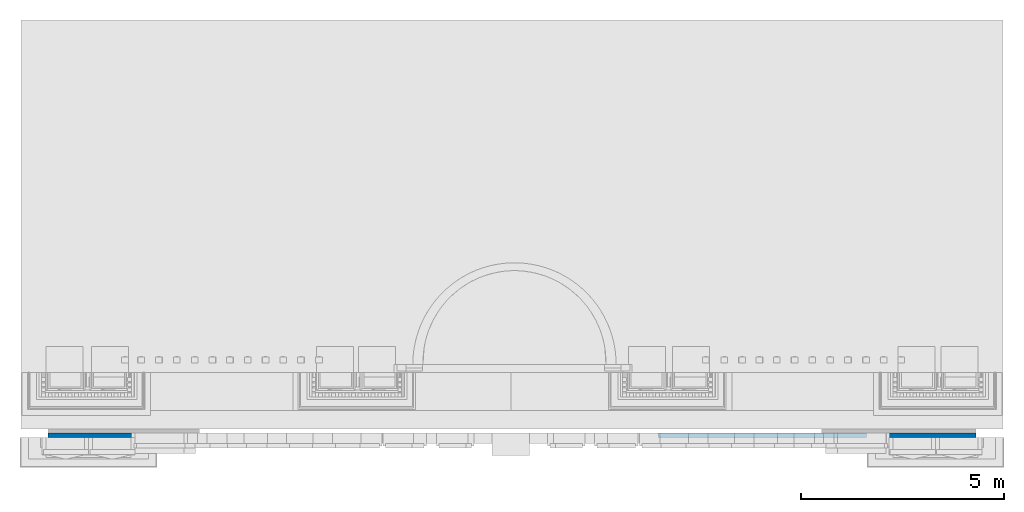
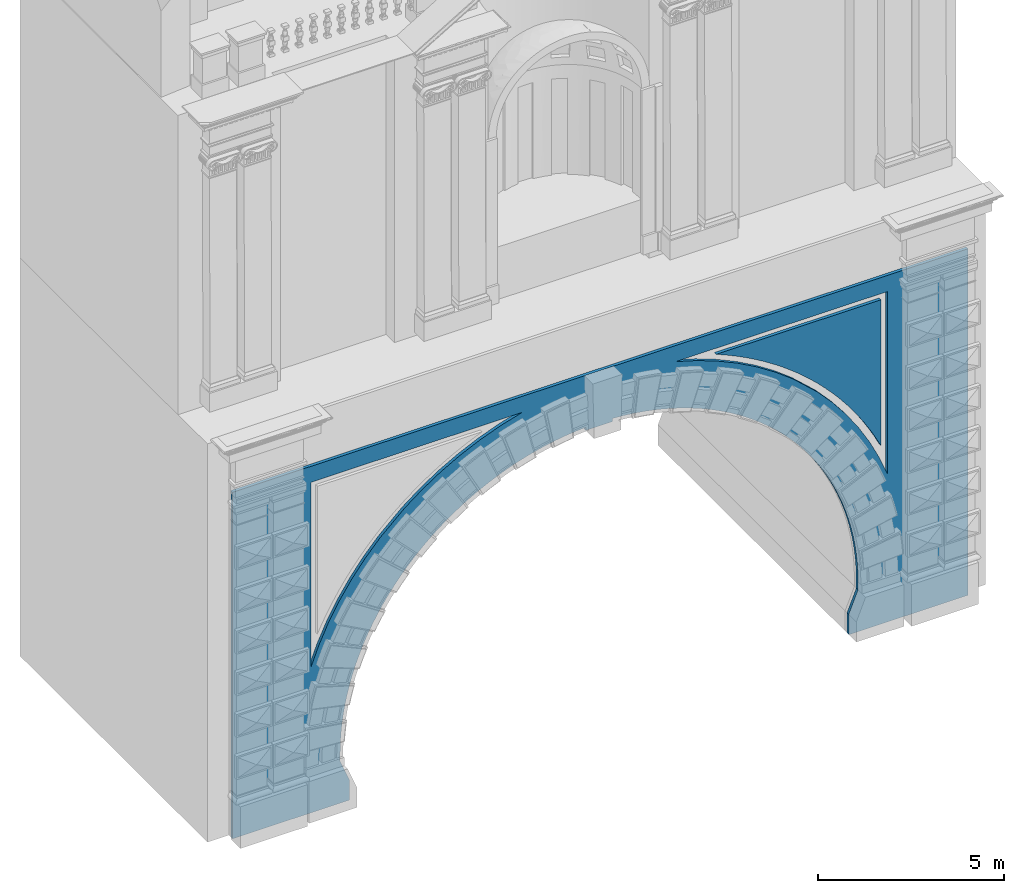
# One storey, part 2 of 44: 2 walls.
"""IFC2X3 building model written with IfcOpenShell, lengths in metres."""

from ifc_helpers import new_model, entity, si_unit, converted_unit, derived_unit, direction, frame, origin, place, context, subcontext, project, spatial, faceted_brep, material, element, save


model = new_model("IFC2X3")

# Units and contexts
model_context = context("Model", 3, precision=1e-05, world=origin(), true_north=direction((6.12303176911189e-17, 1.0)))
body_context = subcontext(model_context, "Body", "Model", "MODEL_VIEW")
ifc_project = project(units=[si_unit("LENGTHUNIT", "METRE"), si_unit("AREAUNIT", "SQUARE_METRE"), si_unit("VOLUMEUNIT", "CUBIC_METRE"), converted_unit("PLANEANGLEUNIT", "DEGREE", entity("IfcRatioMeasure", 0.0174532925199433), si_unit("PLANEANGLEUNIT", "RADIAN"), dimensions=[0, 0, 0, 0, 0, 0, 0]), si_unit("MASSUNIT", "GRAM", prefix="KILO"), derived_unit("MASSDENSITYUNIT", [(si_unit("MASSUNIT", "GRAM", prefix="KILO"), 1), (si_unit("LENGTHUNIT", "METRE"), -3)]), si_unit("TIMEUNIT", "SECOND"), si_unit("FREQUENCYUNIT", "HERTZ"), si_unit("THERMODYNAMICTEMPERATUREUNIT", "DEGREE_CELSIUS"), derived_unit("THERMALTRANSMITTANCEUNIT", [(si_unit("MASSUNIT", "GRAM", prefix="KILO"), 1), (si_unit("THERMODYNAMICTEMPERATUREUNIT", "KELVIN"), -1), (si_unit("TIMEUNIT", "SECOND"), -3)]), derived_unit("VOLUMETRICFLOWRATEUNIT", [(si_unit("LENGTHUNIT", "METRE"), 3), (si_unit("TIMEUNIT", "SECOND"), -1)]), si_unit("ELECTRICCURRENTUNIT", "AMPERE"), si_unit("ELECTRICVOLTAGEUNIT", "VOLT"), si_unit("POWERUNIT", "WATT"), si_unit("FORCEUNIT", "NEWTON", prefix="KILO"), si_unit("ILLUMINANCEUNIT", "LUX"), si_unit("LUMINOUSFLUXUNIT", "LUMEN"), si_unit("LUMINOUSINTENSITYUNIT", "CANDELA"), derived_unit("USERDEFINED", [(si_unit("MASSUNIT", "GRAM", prefix="KILO"), -1), (si_unit("LENGTHUNIT", "METRE"), -2), (si_unit("TIMEUNIT", "SECOND"), 3), (si_unit("LUMINOUSFLUXUNIT", "LUMEN"), 1)]), derived_unit("LINEARVELOCITYUNIT", [(si_unit("LENGTHUNIT", "METRE"), 1), (si_unit("TIMEUNIT", "SECOND"), -1)]), si_unit("PRESSUREUNIT", "PASCAL"), derived_unit("USERDEFINED", [(si_unit("LENGTHUNIT", "METRE"), -2), (si_unit("MASSUNIT", "GRAM", prefix="KILO"), 1), (si_unit("TIMEUNIT", "SECOND"), -2)])], contexts=[model_context])

# Site, building, storey
site_placement = place(None, origin())
site = spatial("IfcSite", under=ifc_project, at=site_placement, Name="Default", CompositionType="ELEMENT")
building_placement = place(site_placement, origin())
building = spatial("IfcBuilding", under=site, at=building_placement, CompositionType="ELEMENT")
storey_placement = place(building_placement, origin())
storey = spatial("IfcBuildingStorey", under=building, at=storey_placement, Name="Livello 1", CompositionType="ELEMENT", Elevation=0.0)

# Walls
ifc_material = material(Name="Travertino")
wall_1_placement = place(storey_placement, frame((-11.4560798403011, -0.334467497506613, 0.0)))
element("IfcWall", 1, at=wall_1_placement, inside=storey, material=ifc_material, Name="Stratigrafia", context=body_context, shape_type="Brep", body=[
    faceted_brep([(8.98517072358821, 0.100000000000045, 10.8413163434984), (8.98517072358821, 0.0, 10.8413163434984), (2.42916462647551, 0.0, 10.8413163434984), (2.42916462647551, 0.100000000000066, 10.8413163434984), (2.42813729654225, 0.0, 4.76894931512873), (2.42813729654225, 0.100000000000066, 4.76894931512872), (2.67488884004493, 0.0, 5.41289509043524), (2.9681069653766, 0.0, 6.03705501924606), (2.9681069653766, 0.100000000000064, 6.03705501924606), (2.67488884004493, 0.100000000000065, 5.41289509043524), (4.10963988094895, 0.0, 7.75798061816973), (4.57063958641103, 0.0, 8.27084683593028), (4.57063958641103, 0.100000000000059, 8.27084683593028), (4.10963988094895, 0.10000000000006, 7.75798061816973), (3.30621899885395, 0.0, 6.63808142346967), (3.68741147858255, 0.0, 7.21275070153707), (3.68741147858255, 0.100000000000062, 7.21275070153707), (3.30621899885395, 0.100000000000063, 6.63808142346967), (4.95000627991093, 0.0, 8.62217245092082), (5.32937297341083, 0.0, 8.97349806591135), (5.32937297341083, 0.100000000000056, 8.97349806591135), (4.95000627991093, 0.100000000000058, 8.62217245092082), (5.87606145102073, 0.0, 9.39383625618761), (6.45204704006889, 0.0, 9.77303684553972), (6.45204704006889, 0.100000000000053, 9.77303684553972), (5.87606145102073, 0.100000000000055, 9.39383625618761), (8.32420801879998, 0.100000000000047, 10.6446420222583), (7.67941180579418, 0.100000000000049, 10.4001214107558), (7.67941180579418, 0.0, 10.4001214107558), (8.32420801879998, 0.0, 10.6446420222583), (7.05424044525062, 0.0, 10.1090659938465), (7.05424044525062, 0.100000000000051, 10.1090659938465), (20.3160033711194, 0.100000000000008, 10.8381782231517), (20.3160033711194, 0.0, 10.8381782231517), (13.753724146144, 0.0, 10.8381782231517), (13.753724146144, 0.100000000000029, 10.8381782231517), (14.4094725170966, 0.0, 10.6429819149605), (15.0494813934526, 0.0, 10.4011221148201), (15.0494813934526, 0.100000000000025, 10.4011221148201), (14.4094725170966, 0.100000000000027, 10.6429819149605), (16.8424231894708, 0.0, 9.40926087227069), (17.3873859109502, 0.0, 8.99559052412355), (17.3873859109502, 0.100000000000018, 8.99559052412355), (16.8424231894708, 0.100000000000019, 9.40926087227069), (15.6704349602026, 0.0, 10.1138518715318), (16.2691161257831, 0.0, 9.78265950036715), (16.2691161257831, 0.100000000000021, 9.78265950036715), (15.6704349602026, 0.100000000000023, 10.1138518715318), (17.7664689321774, 0.0, 8.64995429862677), (18.1455519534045, 0.0, 8.30431807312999), (18.1455519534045, 0.100000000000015, 8.30431807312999), (17.7664689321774, 0.100000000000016, 8.64995429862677), (18.6076585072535, 0.0, 7.79977366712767), (19.0322752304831, 0.0, 7.26329611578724), (19.0322752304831, 0.100000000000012, 7.26329611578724), (18.6076585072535, 0.100000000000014, 7.79977366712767), (20.0602259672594, 0.100000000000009, 5.4907989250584), (19.7604452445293, 0.10000000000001, 6.10581034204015), (19.7604452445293, 0.0, 6.10581034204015), (20.0602259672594, 0.0, 5.4907989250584), (19.4172022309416, 0.0, 6.69766484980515), (19.4172022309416, 0.100000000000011, 6.69766484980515), (20.3149912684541, 0.0, 4.85581690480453), (20.3149912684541, 0.100000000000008, 4.85581690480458), (7.38500571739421, 0.10000000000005, 8.61146723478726), (7.65963426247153, 0.100000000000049, 8.76140181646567), (7.11642358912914, 0.100000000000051, 8.45095288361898), (6.85429524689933, 0.100000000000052, 8.28010222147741), (6.59901827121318, 0.100000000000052, 8.09917438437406), (6.35097985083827, 0.100000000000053, 7.90844379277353), (6.11055619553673, 0.100000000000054, 7.70819973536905), (5.87811196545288, 0.100000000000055, 7.49874593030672), (5.65399971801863, 0.100000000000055, 7.28040006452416), (5.43855937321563, 0.100000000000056, 7.05349331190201), (5.23211769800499, 0.100000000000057, 6.81836983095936), (5.03498781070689, 0.100000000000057, 6.57538624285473), (4.84746870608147, 0.100000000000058, 6.32491109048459), (4.6698448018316, 0.100000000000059, 6.06732427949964), (4.50238550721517, 0.100000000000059, 5.80301650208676), (4.34534481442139, 0.10000000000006, 5.5323886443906), (4.19896091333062, 0.10000000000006, 5.25585117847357), (4.06345583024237, 0.100000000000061, 4.9738235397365), (3.93903509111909, 0.100000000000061, 4.68673349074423), (3.8258874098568, 0.100000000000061, 4.39501647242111), (3.72418440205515, 0.100000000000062, 4.09911494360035), (3.63408032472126, 0.100000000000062, 3.79947770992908), (3.55571184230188, 0.100000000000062, 3.49655924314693), (3.48919781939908, 0.100000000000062, 3.19081899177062), (3.43463914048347, 0.100000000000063, 2.88272068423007), (3.39211855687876, 0.100000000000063, 2.57273162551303), (3.36170056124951, 0.100000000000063, 2.26132198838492), (0.0, 0.100000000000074, 0.0), (3.34343128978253, 0.100000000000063, 1.94896410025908), (3.33733845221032, 0.100000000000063, 1.63613172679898), (3.33733845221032, 0.100000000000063, 1.36736325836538), (3.62394293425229, 0.100000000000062, 0.663748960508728), (3.62394293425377, 0.100000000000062, 0.0), (0.0, 0.100000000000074, 11.3667755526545), (22.8114435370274, 0.0999999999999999, 11.3667755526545), (22.8114435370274, 0.0999999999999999, 2.46118589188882e-09), (19.3508049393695, 0.100000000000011, 2.57273162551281), (19.3812229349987, 0.100000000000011, 2.26132198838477), (19.3994922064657, 0.100000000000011, 1.94896410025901), (19.4055850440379, 0.100000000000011, 1.63613172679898), (19.4055850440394, 0.100000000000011, 1.36736325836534), (19.1189805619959, 0.100000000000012, 2.46118589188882e-09), (19.1189805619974, 0.100000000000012, 0.6637489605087), (19.3082843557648, 0.100000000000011, 2.88272068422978), (19.2537256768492, 0.100000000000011, 3.19081899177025), (19.1872116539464, 0.100000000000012, 3.49655924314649), (19.1088431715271, 0.100000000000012, 3.79947770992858), (19.0187390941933, 0.100000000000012, 4.09911494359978), (18.9170360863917, 0.100000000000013, 4.39501647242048), (18.8038884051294, 0.100000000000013, 4.68673349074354), (18.6794676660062, 0.100000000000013, 4.97382353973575), (18.543962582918, 0.100000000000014, 5.25585117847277), (18.3975786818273, 0.100000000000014, 5.53238864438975), (18.2405379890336, 0.100000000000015, 5.80301650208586), (18.0730786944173, 0.100000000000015, 6.0673242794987), (17.8954547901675, 0.100000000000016, 6.32491109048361), (17.7079356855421, 0.100000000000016, 6.57538624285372), (17.5108057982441, 0.100000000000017, 6.81836983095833), (17.3043641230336, 0.100000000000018, 7.05349331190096), (17.0889237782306, 0.100000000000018, 7.28040006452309), (16.8648115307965, 0.100000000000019, 7.49874593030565), (16.6323673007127, 0.10000000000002, 7.70819973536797), (16.3919436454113, 0.100000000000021, 7.90844379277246), (16.1439052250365, 0.100000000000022, 8.09917438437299), (15.8886282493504, 0.100000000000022, 8.28010222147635), (15.6264999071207, 0.100000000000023, 8.45095288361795), (15.3579177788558, 0.100000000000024, 8.61146723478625), (15.0832892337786, 0.100000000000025, 8.76140181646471), (14.8030308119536, 0.100000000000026, 8.900529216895), (14.5175675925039, 0.100000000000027, 9.02863841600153), (14.2273325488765, 0.100000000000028, 9.14553510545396), (13.9327658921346, 0.100000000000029, 9.25104198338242), (13.6343144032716, 0.10000000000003, 9.34499902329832), (13.3324307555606, 0.100000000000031, 9.42726371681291), (13.0275728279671, 0.100000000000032, 9.49771128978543), (12.7202030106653, 0.100000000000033, 9.55623489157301), (12.4107875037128, 0.100000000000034, 9.60274575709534), (12.0997956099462, 0.100000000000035, 9.63717334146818), (11.7876990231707, 0.100000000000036, 9.65946542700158), (10.9552244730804, 0.100000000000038, 9.65946542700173), (10.9577533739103, 0.100000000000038, 9.55915931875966), (11.7851701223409, 0.100000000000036, 9.55915931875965), (10.6431278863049, 0.100000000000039, 9.63717334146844), (10.3321359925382, 0.10000000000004, 9.6027457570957), (10.0227204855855, 0.100000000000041, 9.55623489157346), (9.71535066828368, 0.100000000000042, 9.49771128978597), (9.41049274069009, 0.100000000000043, 9.42726371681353), (9.10860909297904, 0.100000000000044, 9.34499902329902), (8.81015760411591, 0.100000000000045, 9.25104198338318), (8.5155909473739, 0.100000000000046, 9.14553510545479), (8.22535590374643, 0.100000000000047, 9.02863841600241), (7.9398926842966, 0.100000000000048, 8.90052921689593), (0.0, 0.0, 11.3667755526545), (22.8114435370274, 0.0, 11.3667755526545), (0.0, 0.0, 0.0), (3.33733845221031, 0.0, 1.36736325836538), (3.33733845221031, 0.0, 1.63613172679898), (3.62394293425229, 0.0, 0.663748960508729), (3.34343128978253, 0.0, 1.94896410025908), (3.36170056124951, 0.0, 2.26132198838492), (3.62394293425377, 0.0, 0.0), (3.39211855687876, 0.0, 2.57273162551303), (3.43463914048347, 0.0, 2.88272068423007), (3.48919781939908, 0.0, 3.19081899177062), (3.55571184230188, 0.0, 3.49655924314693), (3.63408032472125, 0.0, 3.79947770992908), (3.72418440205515, 0.0, 4.09911494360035), (3.82588740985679, 0.0, 4.39501647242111), (3.93903509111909, 0.0, 4.68673349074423), (4.06345583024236, 0.0, 4.9738235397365), (4.19896091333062, 0.0, 5.25585117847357), (4.34534481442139, 0.0, 5.5323886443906), (4.50238550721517, 0.0, 5.80301650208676), (4.6698448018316, 0.0, 6.06732427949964), (4.84746870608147, 0.0, 6.32491109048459), (5.03498781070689, 0.0, 6.57538624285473), (5.23211769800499, 0.0, 6.81836983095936), (5.43855937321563, 0.0, 7.05349331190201), (5.65399971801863, 0.0, 7.28040006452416), (5.87811196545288, 0.0, 7.49874593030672), (6.11055619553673, 0.0, 7.70819973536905), (6.35097985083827, 0.0, 7.90844379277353), (6.59901827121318, 0.0, 8.09917438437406), (6.85429524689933, 0.0, 8.28010222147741), (7.11642358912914, 0.0, 8.45095288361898), (7.38500571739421, 0.0, 8.61146723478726), (7.65963426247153, 0.0, 8.76140181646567), (7.9398926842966, 0.0, 8.90052921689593), (8.22535590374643, 0.0, 9.02863841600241), (8.5155909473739, 0.0, 9.14553510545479), (8.81015760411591, 0.0, 9.25104198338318), (9.10860909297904, 0.0, 9.34499902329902), (9.41049274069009, 0.0, 9.42726371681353), (9.71535066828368, 0.0, 9.49771128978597), (10.0227204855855, 0.0, 9.55623489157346), (10.3321359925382, 0.0, 9.6027457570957), (10.6431278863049, 0.0, 9.63717334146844), (10.9552244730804, 0.0, 9.65946542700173), (11.7876990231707, 0.0, 9.65946542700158), (10.9577533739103, 0.0, 9.55915931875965), (11.7851701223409, 0.0, 9.55915931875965), (12.0997956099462, 0.0, 9.63717334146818), (12.4107875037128, 0.0, 9.60274575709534), (12.7202030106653, 0.0, 9.55623489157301), (13.0275728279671, 0.0, 9.49771128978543), (13.3324307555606, 0.0, 9.42726371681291), (13.6343144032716, 0.0, 9.34499902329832), (13.9327658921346, 0.0, 9.25104198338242), (14.2273325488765, 0.0, 9.14553510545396), (14.5175675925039, 0.0, 9.02863841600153), (14.8030308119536, 0.0, 8.900529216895), (15.0832892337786, 0.0, 8.76140181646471), (15.3579177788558, 0.0, 8.61146723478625), (15.6264999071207, 0.0, 8.45095288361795), (15.8886282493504, 0.0, 8.28010222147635), (16.1439052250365, 0.0, 8.09917438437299), (16.3919436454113, 0.0, 7.90844379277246), (16.6323673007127, 0.0, 7.70819973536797), (16.8648115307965, 0.0, 7.49874593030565), (17.0889237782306, 0.0, 7.28040006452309), (17.3043641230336, 0.0, 7.05349331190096), (17.5108057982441, 0.0, 6.81836983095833), (17.7079356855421, 0.0, 6.57538624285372), (17.8954547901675, 0.0, 6.32491109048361), (18.0730786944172, 0.0, 6.0673242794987), (18.2405379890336, 0.0, 5.80301650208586), (18.3975786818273, 0.0, 5.53238864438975), (18.543962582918, 0.0, 5.25585117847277), (18.6794676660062, 0.0, 4.97382353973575), (18.8038884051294, 0.0, 4.68673349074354), (18.9170360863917, 0.0, 4.39501647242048), (19.0187390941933, 0.0, 4.09911494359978), (19.1088431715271, 0.0, 3.79947770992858), (19.1872116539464, 0.0, 3.49655924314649), (19.2537256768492, 0.0, 3.19081899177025), (19.3082843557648, 0.0, 2.88272068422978), (19.3508049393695, 0.0, 2.57273162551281), (22.8114435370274, 0.0, 2.46118697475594e-09), (19.3812229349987, 0.0, 2.26132198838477), (19.3994922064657, 0.0, 1.94896410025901), (19.4055850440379, 0.0, 1.63613172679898), (19.4055850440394, 0.0, 1.36736325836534), (19.1189805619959, 0.0, 2.46118697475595e-09), (19.1189805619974, 0.0, 0.6637489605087)], [[[0, 1, 2, 3]], [[3, 2, 4, 5]], [[6, 7, 8, 9]], [[4, 6, 9, 5]], [[10, 11, 12, 13]], [[14, 15, 16, 17]], [[10, 13, 16, 15]], [[7, 14, 17, 8]], [[11, 18, 19, 20, 21, 12]], [[22, 23, 24, 25]], [[19, 22, 25, 20]], [[26, 27, 28, 29]], [[23, 30, 31, 24]], [[28, 27, 31, 30]], [[29, 1, 0, 26]], [[32, 33, 34, 35]], [[36, 37, 38, 39]], [[34, 36, 39, 35]], [[40, 41, 42, 43]], [[44, 45, 46, 47]], [[40, 43, 46, 45]], [[37, 44, 47, 38]], [[41, 48, 49, 50, 51, 42]], [[52, 53, 54, 55]], [[49, 52, 55, 50]], [[56, 57, 58, 59]], [[53, 60, 61, 54]], [[58, 57, 61, 60]], [[59, 62, 63, 56]], [[63, 62, 33, 32]], [[64, 24, 31]], [[31, 65, 64]], [[24, 64, 66]], [[67, 24, 66]], [[24, 67, 25]], [[68, 25, 67]], [[20, 25, 68]], [[69, 20, 68]], [[20, 69, 70]], [[70, 71, 20]], [[71, 21, 20]], [[71, 12, 21]], [[12, 71, 72]], [[73, 12, 72]], [[12, 73, 13]], [[74, 13, 73]], [[75, 13, 74]], [[16, 13, 75]], [[16, 75, 76]], [[76, 77, 16]], [[17, 16, 77]], [[77, 78, 17]], [[79, 17, 78]], [[79, 8, 17]], [[80, 8, 79]], [[81, 8, 80]], [[81, 9, 8]], [[9, 81, 82]], [[9, 82, 5]], [[83, 5, 82]], [[84, 5, 83]], [[85, 5, 84]], [[85, 86, 5]], [[86, 87, 5]], [[88, 5, 87]], [[5, 88, 89]], [[5, 89, 90]], [[90, 91, 5]], [[92, 91, 90]], [[92, 93, 91]], [[94, 91, 93]], [[91, 94, 95]], [[96, 91, 95]], [[5, 91, 97]], [[97, 3, 5]], [[3, 97, 0]], [[97, 98, 0]], [[35, 0, 98]], [[35, 98, 32]], [[98, 63, 32]], [[99, 63, 98]], [[100, 63, 99]], [[101, 100, 99]], [[102, 101, 99]], [[103, 102, 99]], [[99, 104, 103]], [[104, 99, 105]], [[104, 105, 106]], [[107, 63, 100]], [[107, 108, 63]], [[109, 63, 108]], [[109, 110, 63]], [[110, 111, 63]], [[63, 111, 112]], [[112, 113, 63]], [[63, 113, 56]], [[56, 113, 114]], [[114, 115, 56]], [[57, 56, 115]], [[57, 115, 116]], [[116, 61, 57]], [[116, 117, 61]], [[61, 117, 118]], [[118, 54, 61]], [[54, 118, 119]], [[119, 120, 54]], [[55, 54, 120]], [[55, 120, 121]], [[121, 122, 55]], [[122, 50, 55]], [[123, 50, 122]], [[124, 50, 123]], [[124, 51, 50]], [[124, 42, 51]], [[42, 124, 125]], [[42, 125, 126]], [[126, 127, 42]], [[127, 43, 42]], [[128, 43, 127]], [[43, 128, 129]], [[129, 46, 43]], [[130, 46, 129]], [[46, 130, 47]], [[130, 131, 47]], [[47, 131, 132]], [[38, 47, 132]], [[132, 133, 38]], [[134, 38, 133]], [[134, 39, 38]], [[134, 135, 39]], [[136, 39, 135]], [[35, 39, 136]], [[136, 137, 35]], [[138, 35, 137]], [[138, 139, 35]], [[140, 35, 139]], [[35, 140, 141]], [[141, 142, 35]], [[142, 143, 35]], [[143, 142, 144]], [[142, 145, 144]], [[143, 146, 0]], [[0, 35, 143]], [[146, 147, 0]], [[147, 148, 0]], [[148, 149, 0]], [[149, 150, 0]], [[150, 151, 0]], [[0, 151, 26]], [[152, 26, 151]], [[152, 153, 26]], [[26, 153, 27]], [[153, 154, 27]], [[154, 155, 27]], [[31, 155, 65]], [[27, 155, 31]], [[97, 156, 157, 98]], [[158, 159, 160]], [[159, 158, 161]], [[158, 160, 162]], [[162, 163, 158]], [[161, 158, 164]], [[158, 163, 4]], [[158, 4, 156]], [[4, 163, 165]], [[165, 166, 4]], [[166, 167, 4]], [[167, 168, 4]], [[4, 168, 169]], [[170, 4, 169]], [[171, 4, 170]], [[172, 4, 171]], [[172, 6, 4]], [[173, 6, 172]], [[6, 173, 7]], [[174, 7, 173]], [[175, 7, 174]], [[7, 175, 14]], [[176, 14, 175]], [[14, 176, 177]], [[177, 15, 14]], [[178, 15, 177]], [[15, 178, 179]], [[15, 179, 10]], [[10, 179, 180]], [[10, 180, 181]], [[181, 11, 10]], [[11, 181, 182]], [[11, 182, 183]], [[183, 18, 11]], [[183, 19, 18]], [[19, 183, 184]], [[19, 184, 185]], [[19, 185, 186]], [[19, 186, 22]], [[22, 186, 187]], [[23, 22, 187]], [[188, 23, 187]], [[188, 189, 23]], [[30, 23, 189]], [[189, 190, 30]], [[191, 30, 190]], [[191, 28, 30]], [[191, 192, 28]], [[192, 193, 28]], [[193, 29, 28]], [[193, 194, 29]], [[194, 195, 29]], [[29, 195, 1]], [[195, 196, 1]], [[196, 197, 1]], [[197, 198, 1]], [[198, 199, 1]], [[199, 200, 1]], [[200, 201, 1]], [[1, 201, 34]], [[202, 34, 201]], [[203, 202, 201]], [[204, 202, 203]], [[202, 205, 34]], [[206, 34, 205]], [[207, 34, 206]], [[34, 207, 208]], [[208, 209, 34]], [[209, 210, 34]], [[36, 34, 210]], [[210, 211, 36]], [[211, 212, 36]], [[36, 212, 37]], [[213, 37, 212]], [[213, 214, 37]], [[214, 44, 37]], [[215, 44, 214]], [[215, 216, 44]], [[45, 44, 216]], [[217, 45, 216]], [[45, 217, 40]], [[40, 217, 218]], [[218, 219, 40]], [[219, 41, 40]], [[41, 219, 220]], [[220, 221, 41]], [[41, 221, 222]], [[222, 48, 41]], [[222, 49, 48]], [[49, 222, 223]], [[49, 223, 224]], [[224, 52, 49]], [[224, 225, 52]], [[52, 225, 226]], [[226, 53, 52]], [[227, 53, 226]], [[53, 227, 228]], [[53, 228, 60]], [[60, 228, 229]], [[60, 229, 230]], [[230, 58, 60]], [[58, 230, 231]], [[231, 59, 58]], [[59, 231, 232]], [[59, 232, 233]], [[233, 62, 59]], [[233, 234, 62]], [[62, 234, 235]], [[235, 236, 62]], [[237, 62, 236]], [[237, 238, 62]], [[239, 62, 238]], [[239, 240, 62]], [[240, 241, 62]], [[242, 241, 240]], [[241, 242, 243]], [[243, 244, 241]], [[245, 241, 244]], [[241, 245, 246]], [[245, 247, 246]], [[157, 62, 241]], [[156, 1, 157]], [[33, 62, 157]], [[157, 34, 33]], [[34, 157, 1]], [[1, 156, 2]], [[2, 156, 4]], [[164, 158, 91, 96]], [[157, 241, 99, 98]], [[158, 156, 97, 91]], [[161, 164, 96, 95]], [[159, 161, 95, 94]], [[160, 159, 94, 93]], [[162, 160, 93, 92]], [[169, 168, 86, 85]], [[84, 170, 169, 85]], [[163, 162, 92, 90]], [[168, 167, 87, 86]], [[166, 88, 87, 167]], [[88, 166, 165, 89]], [[170, 84, 83, 171]], [[165, 163, 90, 89]], [[176, 78, 77, 177]], [[179, 178, 76, 75]], [[76, 178, 177, 77]], [[180, 179, 75, 74]], [[173, 172, 82, 81]], [[79, 175, 174, 80]], [[173, 81, 80, 174]], [[176, 175, 79, 78]], [[172, 171, 83, 82]], [[181, 180, 74, 73]], [[73, 72, 182, 181]], [[186, 68, 67, 187]], [[188, 66, 64, 189]], [[188, 187, 67, 66]], [[189, 64, 65, 190]], [[183, 182, 72, 71]], [[185, 184, 70, 69]], [[70, 184, 183, 71]], [[185, 69, 68, 186]], [[191, 190, 65, 155]], [[197, 196, 150, 149]], [[199, 198, 148, 147]], [[148, 198, 197, 149]], [[200, 199, 147, 146]], [[193, 192, 154, 153]], [[151, 195, 194, 152]], [[193, 153, 152, 194]], [[196, 195, 151, 150]], [[192, 191, 155, 154]], [[201, 200, 146, 143]], [[203, 201, 143, 144]], [[204, 203, 144, 145]], [[202, 204, 145, 142]], [[208, 138, 137, 209]], [[210, 136, 135, 211]], [[210, 209, 137, 136]], [[211, 135, 134, 212]], [[205, 202, 142, 141]], [[207, 206, 140, 139]], [[140, 206, 205, 141]], [[207, 139, 138, 208]], [[213, 212, 134, 133]], [[219, 218, 128, 127]], [[221, 220, 126, 125]], [[126, 220, 219, 127]], [[222, 221, 125, 124]], [[215, 214, 132, 131]], [[129, 217, 216, 130]], [[215, 131, 130, 216]], [[218, 217, 129, 128]], [[214, 213, 133, 132]], [[223, 222, 124, 123]], [[123, 122, 224, 223]], [[228, 118, 117, 229]], [[230, 116, 115, 231]], [[230, 229, 117, 116]], [[231, 115, 114, 232]], [[225, 224, 122, 121]], [[227, 226, 120, 119]], [[120, 226, 225, 121]], [[227, 119, 118, 228]], [[233, 232, 114, 113]], [[239, 238, 108, 107]], [[242, 240, 100, 101]], [[100, 240, 239, 107]], [[243, 242, 101, 102]], [[235, 234, 112, 111]], [[109, 237, 236, 110]], [[235, 111, 110, 236]], [[238, 237, 109, 108]], [[234, 233, 113, 112]], [[244, 243, 102, 103]], [[245, 244, 103, 104]], [[247, 245, 104, 106]], [[246, 247, 106, 105]], [[241, 246, 105, 99]]]),
])
wall_2_placement = place(storey_placement, frame((3.54121054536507, -0.334467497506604, 5.84678080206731)))
element("IfcWall", 2, at=wall_2_placement, inside=storey, material=ifc_material, Name="Stratigrafia", context=body_context, shape_type="Brep", body=[
    faceted_brep([(4.62546200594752, 0.100000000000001, 0.899285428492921), (4.80009321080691, 0.100000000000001, 0.605892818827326), (4.80009321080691, 0.0, 0.605892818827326), (4.62546200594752, 0.0, 0.899285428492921), (4.96429654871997, 0.1, 0.306539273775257), (5.1178688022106, 0.0999999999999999, 0.00159527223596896), (5.11786880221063, 0.0, 0.00159527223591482), (4.96429654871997, 0.0, 0.306539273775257), (4.44061905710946, 0.100000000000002, 1.18635400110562), (4.44061905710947, 0.0, 1.1863540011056), (3.60388855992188, 0.100000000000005, 2.26440898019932), (3.82716883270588, 0.100000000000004, 2.00610450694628), (3.82716883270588, 0.0, 2.00610450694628), (3.60388855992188, 0.0, 2.26440898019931), (3.37166083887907, 0.100000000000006, 2.51469994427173), (3.37166083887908, 0.0, 2.51469994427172), (4.04122532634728, 0.100000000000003, 1.74010620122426), (4.24579312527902, 0.100000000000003, 1.46674326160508), (4.24579312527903, 0.0, 1.46674326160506), (4.04122532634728, 0.0, 1.74010620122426), (3.1307730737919, 0.100000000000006, 2.75666763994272), (3.1307730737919, 0.0, 2.75666763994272), (2.88152338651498, 0.0, 2.99001260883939), (2.88152338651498, 0.100000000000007, 2.99001260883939), (2.08673693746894, 0.10000000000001, 3.6354787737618), (2.35918209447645, 0.100000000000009, 3.42969024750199), (2.35918209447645, 0.0, 3.42969024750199), (2.08673693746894, 0.0, 3.6354787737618), (2.62422024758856, 0.100000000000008, 3.21444606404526), (2.62422024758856, 0.0, 3.21444606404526), (1.8072219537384, 0.100000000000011, 3.83155695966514), (1.8072219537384, 0.0, 3.83155695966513), (0.625504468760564, 0.100000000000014, 4.51409944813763), (0.929758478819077, 0.100000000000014, 4.35916469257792), (0.929758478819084, 0.0, 4.35916469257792), (0.625504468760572, 0.0, 4.51409944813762), (0.31598904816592, 0.100000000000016, 4.65823648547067), (0.31598904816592, 0.0, 4.65823648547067), (1.22837453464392, 0.100000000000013, 4.19362396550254), (1.52098307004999, 0.100000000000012, 4.01768213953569), (1.52098307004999, 0.0, 4.01768213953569), (1.22837453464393, 0.0, 4.19362396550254), (0.00159527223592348, 0.100000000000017, 4.79139742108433), (0.00159527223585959, 0.0, 4.79139742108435), (5.11867914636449, 0.0, 4.79139742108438), (5.11867914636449, 0.0999999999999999, 4.79139742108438)], [[[0, 1, 2, 3]], [[4, 5, 6, 7]], [[4, 7, 2, 1]], [[8, 0, 3, 9]], [[10, 11, 12, 13]], [[14, 10, 13, 15]], [[16, 17, 18, 19]], [[11, 16, 19, 12]], [[8, 9, 18, 17]], [[20, 14, 15, 21]], [[21, 22, 23, 20]], [[24, 25, 26, 27]], [[28, 23, 22, 29]], [[28, 29, 26, 25]], [[30, 24, 27, 31]], [[32, 33, 34, 35]], [[36, 32, 35, 37]], [[38, 39, 40, 41]], [[33, 38, 41, 34]], [[30, 31, 40, 39]], [[42, 36, 37, 43]], [[42, 43, 44, 45]], [[45, 44, 6, 5]], [[36, 42, 45, 5, 4, 1, 0, 8, 17, 16, 11, 10, 14, 20, 23, 28, 25, 24, 30, 39, 38, 33, 32]], [[31, 27, 26, 29, 22, 21, 15, 13, 12, 19, 18, 9, 3, 2, 7, 6, 44, 43, 37, 35, 34, 41, 40]]]),
])

save(model, "model.ifc")
